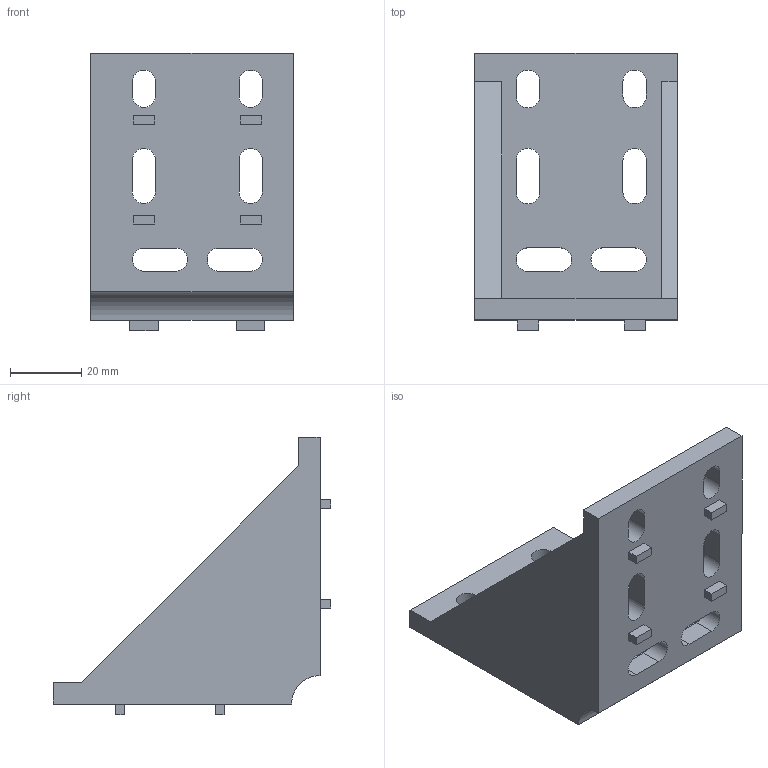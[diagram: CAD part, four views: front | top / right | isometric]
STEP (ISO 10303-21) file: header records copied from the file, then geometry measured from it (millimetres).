
FILE_DESCRIPTION(/* description */ ('Unknown'),/* implementation_level */ '2;1');
FILE_NAME(/* name */ 'DL5775',/* time_stamp */ '2026-09-18T09:57:43+08:00',/* author */ ('Unknown'),/* organization */ ('Unknown'),/* preprocessor_version */ 'ST-DEVELOPER v16.7',/* originating_system */ 'DEX',/* authorisation */ $);
FILE_SCHEMA (('AUTOMOTIVE_DESIGN {1 0 10303 214 3 1 1}'));
Length unit declared in the file: millimetre
Products named in the file (1): 1DL5775
Bounding box: 57 x 78 x 78 mm (x, y, z)
Volume: 63244.2 mm3; surface area: 26577 mm2
Topology: 1 solids, 1 shells, 101 faces, 273 edges, 182 vertices
Faces by surface type: plane 76, cylinder 25
Entity records: 3235 total; most frequent: CARTESIAN_POINT 557, ORIENTED_EDGE 546, DIRECTION 527, EDGE_CURVE 273, LINE 223, VECTOR 223, VERTEX_POINT 182, AXIS2_PLACEMENT_3D 152
